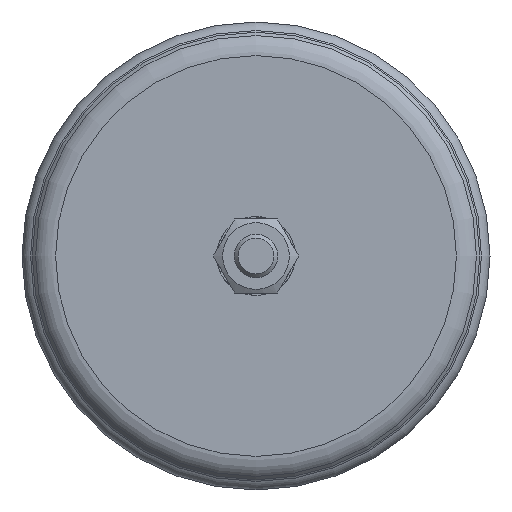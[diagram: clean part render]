
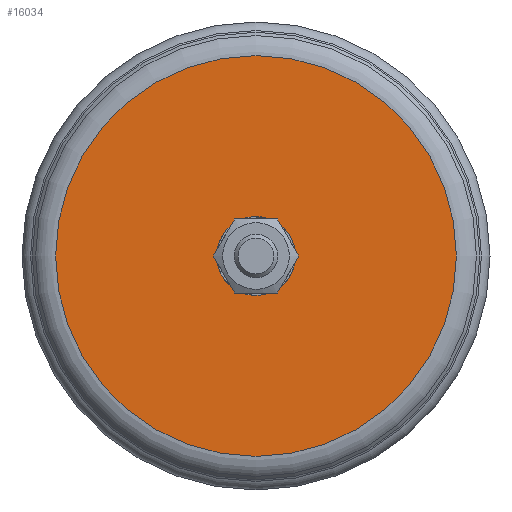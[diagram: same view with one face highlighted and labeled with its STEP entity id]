
A CAD part, front view. The second image highlights one B-rep face of the part: STEP entity #16034.
In plain terms, the highlighted planar face has unit normal (0, -1, 0).
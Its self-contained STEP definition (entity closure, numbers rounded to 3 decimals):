
#395=FACE_BOUND('',#1953,.T.);
#533=CIRCLE('',#16988,6.148);
#552=CIRCLE('',#17032,46.035);
#980=FACE_OUTER_BOUND('',#1952,.T.);
#1952=EDGE_LOOP('',(#10614));
#1953=EDGE_LOOP('',(#10615));
#6335=VERTEX_POINT('',#22098);
#6366=VERTEX_POINT('',#22215);
#8025=EDGE_CURVE('',#6335,#6335,#533,.T.);
#8062=EDGE_CURVE('',#6366,#6366,#552,.T.);
#10614=ORIENTED_EDGE('',*,*,#8062,.T.);
#10615=ORIENTED_EDGE('',*,*,#8025,.T.);
#15513=PLANE('',#17033);
#16034=ADVANCED_FACE('',(#980,#395),#15513,.T.);
#16988=AXIS2_PLACEMENT_3D('',#22099,#18305,#18306);
#17032=AXIS2_PLACEMENT_3D('',#22216,#18399,#18400);
#17033=AXIS2_PLACEMENT_3D('',#22217,#18401,#18402);
#18305=DIRECTION('center_axis',(0.,1.,0.));
#18306=DIRECTION('ref_axis',(0.,0.,-1.));
#18399=DIRECTION('center_axis',(0.,-1.,0.));
#18400=DIRECTION('ref_axis',(-1.,0.,0.));
#18401=DIRECTION('center_axis',(0.,-1.,0.));
#18402=DIRECTION('ref_axis',(0.,0.,-1.));
#22098=CARTESIAN_POINT('',(-0.003,-161.741,-6.148));
#22099=CARTESIAN_POINT('Origin',(-0.003,-161.741,
0.));
#22215=CARTESIAN_POINT('',(-46.038,-161.741,0.));
#22216=CARTESIAN_POINT('Origin',(-0.003,-161.741,
0.));
#22217=CARTESIAN_POINT('Origin',(-23.021,-161.741,0.));
